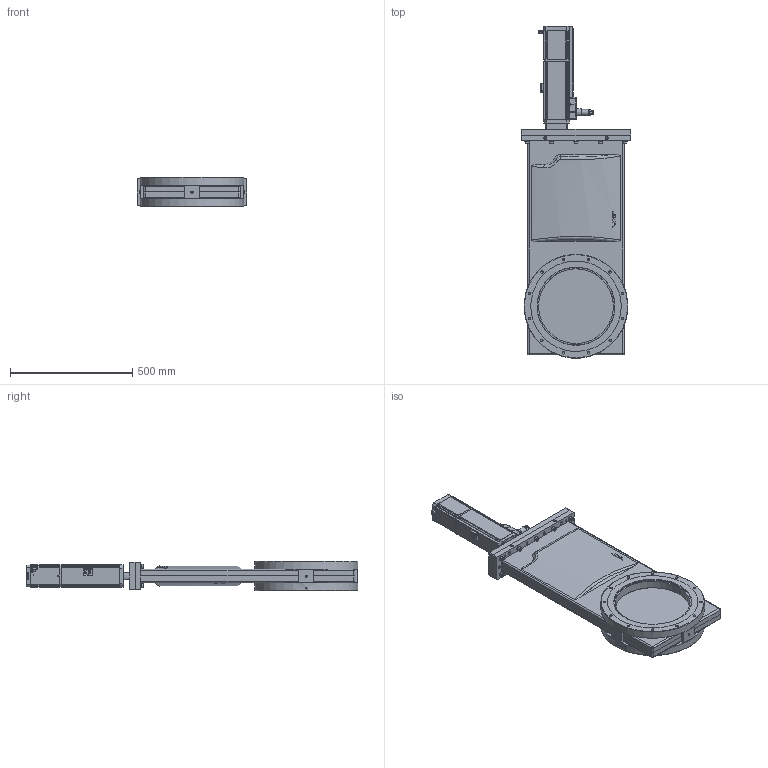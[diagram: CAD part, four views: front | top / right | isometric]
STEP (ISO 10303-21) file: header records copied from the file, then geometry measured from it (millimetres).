
FILE_DESCRIPTION(/* description */ (''),/* implementation_level */ '2;1');
FILE_NAME(/* name */ '1089444712_203.stp',/* time_stamp */ '2022-07-13T14:25:06+02:00',/* author */ (''),/* organization */ (''),/* preprocessor_version */ 'ST-DEVELOPER v18.1',/* originating_system */ 'SIEMENS PLM Software NX 1973',/* authorisation */ '');
FILE_SCHEMA (('AP203_CONFIGURATION_CONTROLLED_3D_DESIGN_OF_MECHANICAL_PARTS_AND_ASSEMBLIES_MIM_LF { 1 0 10303 403 2 1 2}'));
Length unit declared in the file: millimetre
Products named in the file (54): n-6005-535.1_33687ID; 65664-01.2_33671ID; 65664-01.2_33771ID; 386293_33573ID; 457464_33629ID; 457464_33701ID; n-6005-437.1; N-6005-477.1; N-6005-473.1; 72979-01.1; 72846-01.1; 495271; 73692-01.1; 495253; 70738-01.1; 73691-01.1; 495255; 87609-01.1; N-7100-009_3.1; 204389.4; n-6024-526; N-7100-014_2.1; 94828-01.1; N-7100-012_3.1; n-7100-007.2; n-6197-034.1; 395614; 94220-01.1; 86827-01.3_33742ID; 86827-01.3_33696ID; 86831.2; n-6013-445.1; 395783; 87172-01.1; n-6024-548.1; n-8504-002; 507356; 70973-01.1; 464926; 65313-01.1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
Assembly tree (92 placements, depth 4):
  899000
    86830-r1
      86831.2  x3
      386313
        457464_33701ID
        457464_33629ID
        386293_33573ID
      86827-01.3_33696ID
      86827-01.3_33742ID
    218206.1  x10
    n-6134-410  x10
    384437  x2
    894240
    65313-01.1
    464926
    70973-01.1
    507356
    n-8504-002
    n-6024-548.1  x4
    87172-01.1  x4
    553954
      94220-01.1
      395614
      n-6197-034.1
      n-7100-007.2  x2
      94226-01.2
        65664-01.2_33771ID
    395783
    n-6013-445.1
    94827-r1.1
      N-7100-012_3.1
      94828-01.1
      N-7100-014_2.1
      n-6024-526  x2
    205784.2_NX-ARRAGMNTZUSAMMENST1
      204389.4
      N-7100-009_3.1
    495275
      87609-01.1  x4
      495255
      73691-01.1
      70738-01.1
      495253
      73692-01.1
      495271
      72846-01.1
      72979-01.1
      N-6005-473.1  x2
      N-6005-477.1  x4
      n-6005-437.1  x4
      94313-01.2
        65664-01.2_33671ID
      87606-01.1
        n-6005-535.1_33687ID
Bounding box: 448 x 1357.77 x 120 mm (x, y, z)
Volume: 13487590.9 mm3; surface area: 2791215.4 mm2
Topology: 127 solids, 127 shells, 2577 faces, 6244 edges, 4102 vertices
Faces by surface type: plane 1362, cylinder 731, cone 187, torus 142, extrusion 92, bspline 49, sphere 14
Full cylindrical faces by diameter (mm): 0.4 x1, 0.725 x1, 1.2 x1, 1.5 x6, 1.66 x7, 2 x4, 2.125 x1, 2.5 x12, 2.65 x1, 3 x4, 3.26 x4, 3.3 x16, 4 x14, 4.05 x4, 4.2 x6, 4.3 x6, 4.35 x2, 4.4 x8, 4.45 x4, 4.5 x2, 4.625 x2, 4.96 x6, 5 x19, 5.2 x4, 5.8 x1, 5.9 x5, 5.99 x2, 6 x23, 6.035 x2, 6.25 x2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
Entity records: 73276 total; most frequent: CARTESIAN_POINT 21760, DIRECTION 8879, ORIENTED_EDGE 8734, EDGE_CURVE 4367, AXIS2_PLACEMENT_3D 3381, VERTEX_POINT 3194, EDGE_LOOP 2881, VECTOR 2117
